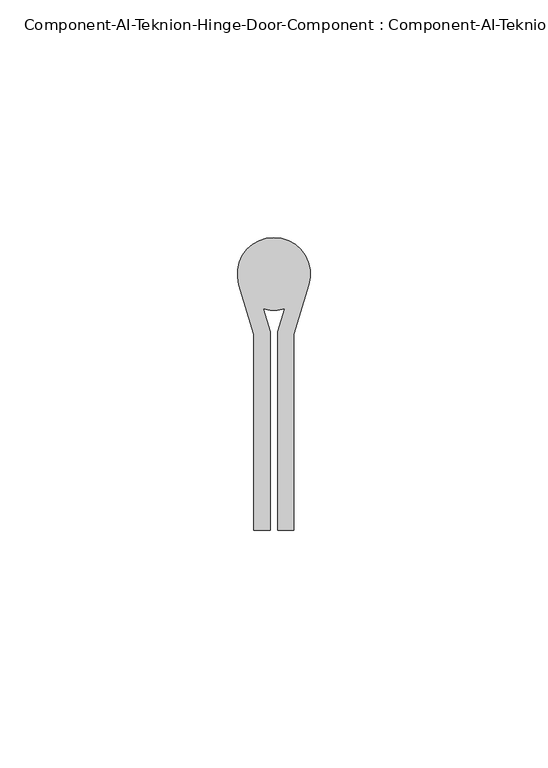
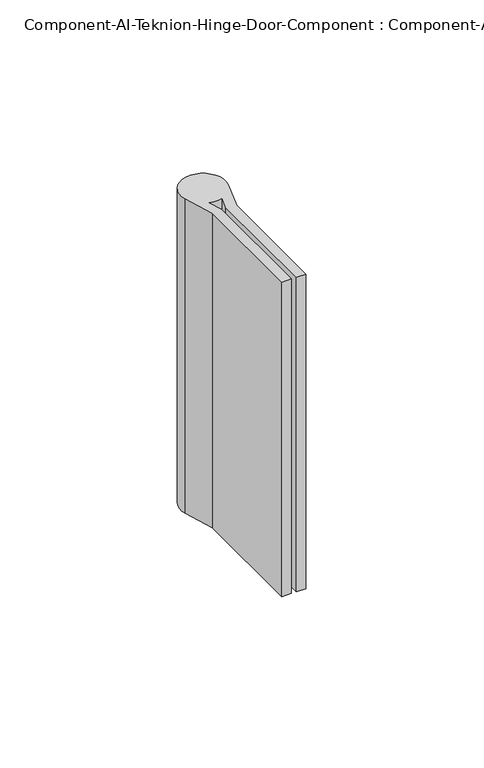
"""IFC4 building model written with IfcOpenShell, lengths in millimetres: furniture geometry, Component-AI-Teknion-Hinge-Door-Component : Component-AI-Teknion-Hinge-Door-Component."""

from ifc_helpers import new_model, si_unit, point, frame_2d, origin, origin_with_axes, place, context, project, spatial, polyline, circle_curve, trimmed, segment, composite_curve, outline, extrude, source, transform, mapped, element, save


def component_ai_teknion_hinge_door_component_component_ai_727700d4(model_context):
    return source(origin(), model_context, "Body", "SweptSolid", [
        extrude(outline(composite_curve([segment(polyline([(-4.1024655, 3.428821), (-7.2617763, 13.9116799)]), True, "CONTINUOUS"), segment(trimmed(circle_curve(frame_2d((0.0948845, 16.128821)), 7.6835), [point((-7.2617763, 13.9116799))], [point((7.4515452, 13.9116799))], False, "CARTESIAN"), True, "CONTINUOUS"), segment(polyline([(7.4515452, 13.9116799), (4.2922345, 3.428821), (4.2922345, -37.846179), (0.8886345, -37.846179), (0.8886345, 3.9305617), (2.3514004, 8.7841421)]), True, "CONTINUOUS"), segment(trimmed(circle_curve(frame_2d((0.0948845, 16.128821)), 7.6835), [point((2.3514004, 8.7841421))], [point((-2.1616314, 8.7841421))], False, "CARTESIAN"), True, "CONTINUOUS"), segment(polyline([(-2.1616314, 8.7841421), (-0.6988655, 3.9305617), (-0.6988655, -37.846179), (-4.1024655, -37.846179), (-4.1024655, 3.428821)]), True, "CONTINUOUS")], self_intersect=False)), origin_with_axes(), (0.0, 0.0, 1.0), 114.3),
    ])


if __name__ == "__main__":
    model = new_model("IFC4")
    model_context = context("Model", 3, world=origin())
    ifc_project = project(units=[si_unit("LENGTHUNIT", "METRE", prefix="MILLI")], contexts=[model_context])
    site = spatial("IfcSite", under=ifc_project)
    building = spatial("IfcBuilding", under=site)
    placement = place(None, origin())
    component_ai_teknion_hinge_door_component_component_ai_shape = component_ai_teknion_hinge_door_component_component_ai_727700d4(model_context)
    element("IfcFurniture", 1, ObjectType="Component-AI-Teknion-Hinge-Door-Component : Component-AI-Teknion-Hinge-Door-Component", at=placement, inside=building, context=model_context, shape_type="MappedRepresentation", body=[
        mapped(component_ai_teknion_hinge_door_component_component_ai_shape, transform((0.0, 0.0, 0.0), x_axis=(1.0, 0.0, 0.0), y_axis=(0.0, 1.0, 0.0), z_axis=(0.0, 0.0, 1.0))),
    ])
    save(model, "model.ifc")
